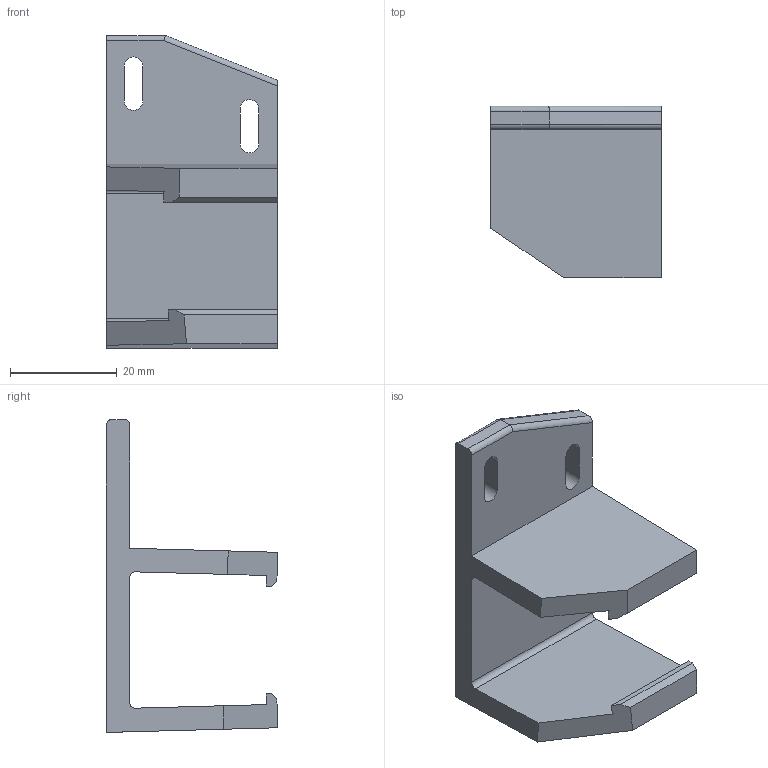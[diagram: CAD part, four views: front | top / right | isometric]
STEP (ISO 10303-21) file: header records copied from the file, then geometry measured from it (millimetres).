
FILE_DESCRIPTION(/* description */ (''),/* implementation_level */ '2;1');
FILE_NAME(/* name */ 'C:\Users\Nick\Documents\Inventor\Capstone\Clip_Left_V2.stp',/* time_stamp */ '2017-12-08T00:01:59-08:00',/* author */ ('Nick'),/* organization */ (''),/* preprocessor_version */ 'ST-DEVELOPER v16.5',/* originating_system */ 'Autodesk Inventor 2017',/* authorisation */ '');
FILE_SCHEMA (('AUTOMOTIVE_DESIGN { 1 0 10303 214 3 1 1 }'));
Length unit declared in the file: millimetre
Products named in the file (1): Clip_Left_V2
Bounding box: 32 x 32.11 x 58.64 mm (x, y, z)
Volume: 14895.3 mm3; surface area: 8211 mm2
Topology: 1 solids, 1 shells, 35 faces, 97 edges, 64 vertices
Faces by surface type: plane 25, cylinder 10
Entity records: 1151 total; most frequent: CARTESIAN_POINT 197, ORIENTED_EDGE 194, DIRECTION 187, EDGE_CURVE 97, LINE 79, VECTOR 79, VERTEX_POINT 64, AXIS2_PLACEMENT_3D 54
